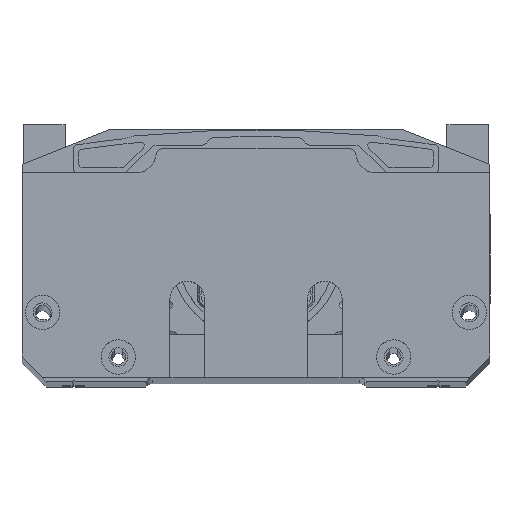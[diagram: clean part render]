
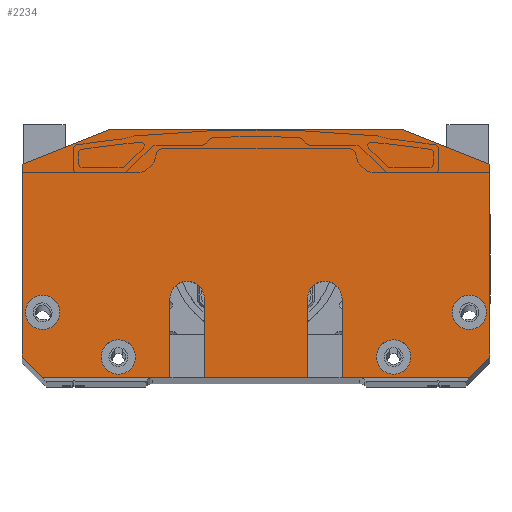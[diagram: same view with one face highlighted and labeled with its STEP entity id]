
A CAD part, top view. The second image highlights one B-rep face of the part: STEP entity #2234.
In plain terms, the highlighted planar face has unit normal (0, 0, 1).
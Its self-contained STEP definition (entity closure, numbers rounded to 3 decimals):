
#2234=ADVANCED_FACE('9',(#3307,#3308,#3309,#3310,#3311),#2891,.T.);
#2891=PLANE('',#18897);
#3307=FACE_BOUND('',#4323,.T.);
#3308=FACE_BOUND('',#4324,.T.);
#3309=FACE_BOUND('',#4325,.T.);
#3310=FACE_BOUND('',#4326,.T.);
#3311=FACE_BOUND('',#4327,.T.);
#4323=EDGE_LOOP('',(#8752,#8753,#8754,#8755,#8756,#8757,#8758,#8759,#8760,
#8761,#8762,#8763,#8764,#8765,#8766,#8767));
#4324=EDGE_LOOP('',(#8768));
#4325=EDGE_LOOP('',(#8769));
#4326=EDGE_LOOP('',(#8770));
#4327=EDGE_LOOP('',(#8771));
#5491=CIRCLE('',#18856,5.);
#5493=CIRCLE('',#18861,5.);
#5511=CIRCLE('',#18893,5.);
#5512=CIRCLE('',#18894,5.);
#5513=CIRCLE('',#18895,5.);
#5514=CIRCLE('',#18896,5.);
#8752=ORIENTED_EDGE('',*,*,#14328,.T.);
#8753=ORIENTED_EDGE('',*,*,#14330,.T.);
#8754=ORIENTED_EDGE('',*,*,#14324,.T.);
#8755=ORIENTED_EDGE('',*,*,#13430,.F.);
#8756=ORIENTED_EDGE('',*,*,#14336,.T.);
#8757=ORIENTED_EDGE('',*,*,#14338,.T.);
#8758=ORIENTED_EDGE('',*,*,#14332,.T.);
#8759=ORIENTED_EDGE('',*,*,#13427,.F.);
#8760=ORIENTED_EDGE('',*,*,#13444,.T.);
#8761=ORIENTED_EDGE('',*,*,#13458,.F.);
#8762=ORIENTED_EDGE('',*,*,#14347,.T.);
#8763=ORIENTED_EDGE('',*,*,#14369,.F.);
#8764=ORIENTED_EDGE('',*,*,#14350,.T.);
#8765=ORIENTED_EDGE('',*,*,#13372,.F.);
#8766=ORIENTED_EDGE('',*,*,#13415,.T.);
#8767=ORIENTED_EDGE('',*,*,#13433,.F.);
#8768=ORIENTED_EDGE('',*,*,#14370,.F.);
#8769=ORIENTED_EDGE('',*,*,#14371,.F.);
#8770=ORIENTED_EDGE('',*,*,#14372,.F.);
#8771=ORIENTED_EDGE('',*,*,#14373,.F.);
#11463=VERTEX_POINT('',#26905);
#11464=VERTEX_POINT('',#26907);
#11492=VERTEX_POINT('',#26986);
#11498=VERTEX_POINT('',#27007);
#11499=VERTEX_POINT('',#27009);
#11500=VERTEX_POINT('',#27012);
#11501=VERTEX_POINT('',#27014);
#11502=VERTEX_POINT('',#27017);
#11509=VERTEX_POINT('',#27038);
#11519=VERTEX_POINT('',#27064);
#12058=VERTEX_POINT('',#30633);
#12060=VERTEX_POINT('',#30639);
#12062=VERTEX_POINT('',#30648);
#12064=VERTEX_POINT('',#30654);
#12073=VERTEX_POINT('',#30679);
#12075=VERTEX_POINT('',#30685);
#12085=VERTEX_POINT('',#30725);
#12086=VERTEX_POINT('',#30727);
#12087=VERTEX_POINT('',#30729);
#12088=VERTEX_POINT('',#30731);
#13372=EDGE_CURVE('',#11463,#11464,#15523,.T.);
#13415=EDGE_CURVE('',#11463,#11492,#15556,.T.);
#13427=EDGE_CURVE('',#11498,#11499,#15567,.T.);
#13430=EDGE_CURVE('',#11500,#11501,#15570,.T.);
#13433=EDGE_CURVE('',#11502,#11492,#15573,.T.);
#13444=EDGE_CURVE('',#11498,#11509,#15583,.T.);
#13458=EDGE_CURVE('',#11519,#11509,#15595,.T.);
#14324=EDGE_CURVE('',#12058,#11501,#16022,.T.);
#14328=EDGE_CURVE('',#11502,#12060,#16026,.T.);
#14330=EDGE_CURVE('',#12060,#12058,#5491,.T.);
#14332=EDGE_CURVE('',#12062,#11499,#16028,.T.);
#14336=EDGE_CURVE('',#11500,#12064,#16032,.T.);
#14338=EDGE_CURVE('',#12064,#12062,#5493,.T.);
#14347=EDGE_CURVE('',#11519,#12073,#16037,.T.);
#14350=EDGE_CURVE('',#12075,#11464,#16040,.T.);
#14369=EDGE_CURVE('',#12075,#12073,#16046,.T.);
#14370=EDGE_CURVE('',#12085,#12085,#5511,.T.);
#14371=EDGE_CURVE('',#12086,#12086,#5512,.T.);
#14372=EDGE_CURVE('',#12087,#12087,#5513,.T.);
#14373=EDGE_CURVE('',#12088,#12088,#5514,.T.);
#15523=LINE('',#26906,#16821);
#15556=LINE('',#26987,#16854);
#15567=LINE('',#27008,#16865);
#15570=LINE('',#27013,#16868);
#15573=LINE('',#27018,#16871);
#15583=LINE('',#27039,#16881);
#15595=LINE('',#27065,#16893);
#16022=LINE('',#30632,#17320);
#16026=LINE('',#30640,#17324);
#16028=LINE('',#30647,#17326);
#16032=LINE('',#30655,#17330);
#16037=LINE('',#30678,#17335);
#16040=LINE('',#30684,#17338);
#16046=LINE('',#30723,#17344);
#16821=VECTOR('',#20761,1.);
#16854=VECTOR('',#20832,1.);
#16865=VECTOR('',#20851,1.);
#16868=VECTOR('',#20854,1.);
#16871=VECTOR('',#20857,1.);
#16881=VECTOR('',#20875,1.);
#16893=VECTOR('',#20895,1.);
#17320=VECTOR('',#22654,1.);
#17324=VECTOR('',#22660,1.);
#17326=VECTOR('',#22670,1.);
#17330=VECTOR('',#22676,1.);
#17335=VECTOR('',#22701,1.);
#17338=VECTOR('',#22706,1.);
#17344=VECTOR('',#22758,1.);
#18856=AXIS2_PLACEMENT_3D('',#30643,#22665,#22666);
#18861=AXIS2_PLACEMENT_3D('',#30658,#22681,#22682);
#18893=AXIS2_PLACEMENT_3D('',#30724,#22759,#22760);
#18894=AXIS2_PLACEMENT_3D('',#30726,#22761,#22762);
#18895=AXIS2_PLACEMENT_3D('',#30728,#22763,#22764);
#18896=AXIS2_PLACEMENT_3D('',#30730,#22765,#22766);
#18897=AXIS2_PLACEMENT_3D('',#30732,#22767,#22768);
#20761=DIRECTION('',(0.,1.,0.));
#20832=DIRECTION('',(0.707,-0.707,0.));
#20851=DIRECTION('',(-1.,0.,0.));
#20854=DIRECTION('',(-1.,0.,0.));
#20857=DIRECTION('',(-1.,0.,0.));
#20875=DIRECTION('',(0.707,0.707,0.));
#20895=DIRECTION('',(0.,-1.,0.));
#22654=DIRECTION('',(0.,-1.,0.));
#22660=DIRECTION('',(0.,1.,0.));
#22665=DIRECTION('',(0.,0.,-1.));
#22666=DIRECTION('',(1.,0.,0.));
#22670=DIRECTION('',(0.,-1.,0.));
#22676=DIRECTION('',(0.,1.,0.));
#22681=DIRECTION('',(0.,0.,-1.));
#22682=DIRECTION('',(-1.,0.,0.));
#22701=DIRECTION('',(-0.928,0.371,0.));
#22706=DIRECTION('',(-0.928,-0.371,0.));
#22758=DIRECTION('',(1.,0.,0.));
#22759=DIRECTION('',(0.,0.,1.));
#22760=DIRECTION('',(1.,0.,0.));
#22761=DIRECTION('',(0.,0.,1.));
#22762=DIRECTION('',(1.,0.,0.));
#22763=DIRECTION('',(0.,0.,1.));
#22764=DIRECTION('',(1.,0.,0.));
#22765=DIRECTION('',(0.,0.,1.));
#22766=DIRECTION('',(1.,0.,0.));
#22767=DIRECTION('',(0.,0.,1.));
#22768=DIRECTION('',(-1.,0.,0.));
#26905=CARTESIAN_POINT('',(-68.,6.,382.));
#26906=CARTESIAN_POINT('',(-68.,0.,382.));
#26907=CARTESIAN_POINT('',(-68.,62.,382.));
#26986=CARTESIAN_POINT('',(-62.,0.,382.));
#26987=CARTESIAN_POINT('',(-49.,-13.,382.));
#27007=CARTESIAN_POINT('',(62.,0.,382.));
#27008=CARTESIAN_POINT('',(68.,0.,382.));
#27009=CARTESIAN_POINT('',(25.,0.,382.));
#27012=CARTESIAN_POINT('',(15.,0.,382.));
#27013=CARTESIAN_POINT('',(68.,0.,382.));
#27014=CARTESIAN_POINT('',(-15.,0.,382.));
#27017=CARTESIAN_POINT('',(-25.,0.,382.));
#27018=CARTESIAN_POINT('',(68.,0.,382.));
#27038=CARTESIAN_POINT('',(68.,6.,382.));
#27039=CARTESIAN_POINT('',(49.,-13.,382.));
#27064=CARTESIAN_POINT('',(68.,62.,382.));
#27065=CARTESIAN_POINT('',(68.,0.,382.));
#30632=CARTESIAN_POINT('',(-15.,23.,382.));
#30633=CARTESIAN_POINT('',(-15.,23.,382.));
#30639=CARTESIAN_POINT('',(-25.,23.,382.));
#30640=CARTESIAN_POINT('',(-25.,23.,382.));
#30643=CARTESIAN_POINT('',(-20.,23.,382.));
#30647=CARTESIAN_POINT('',(25.,23.,382.));
#30648=CARTESIAN_POINT('',(25.,23.,382.));
#30654=CARTESIAN_POINT('',(15.,23.,382.));
#30655=CARTESIAN_POINT('',(15.,23.,382.));
#30658=CARTESIAN_POINT('',(20.,23.,382.));
#30678=CARTESIAN_POINT('',(18.345,81.862,382.));
#30679=CARTESIAN_POINT('',(43.,72.,382.));
#30684=CARTESIAN_POINT('',(-18.345,81.862,382.));
#30685=CARTESIAN_POINT('',(-43.,72.,382.));
#30723=CARTESIAN_POINT('',(68.,72.,382.));
#30724=CARTESIAN_POINT('',(-62.,19.,382.));
#30725=CARTESIAN_POINT('',(-57.,19.,382.));
#30726=CARTESIAN_POINT('',(62.,19.,382.));
#30727=CARTESIAN_POINT('',(67.,19.,382.));
#30728=CARTESIAN_POINT('',(-40.,6.,382.));
#30729=CARTESIAN_POINT('',(-35.,6.,382.));
#30730=CARTESIAN_POINT('',(40.,6.,382.));
#30731=CARTESIAN_POINT('',(45.,6.,382.));
#30732=CARTESIAN_POINT('',(0.,36.,382.));
